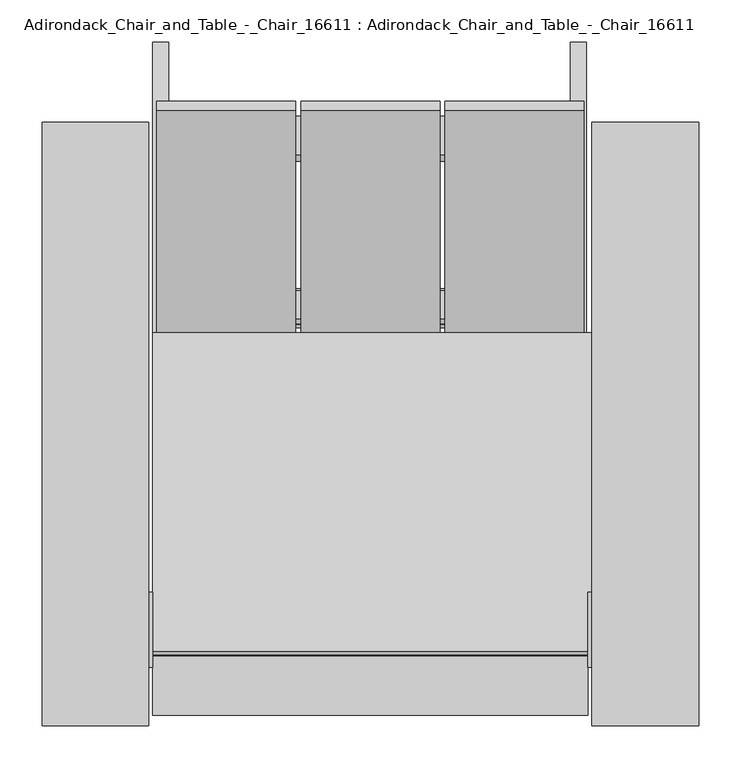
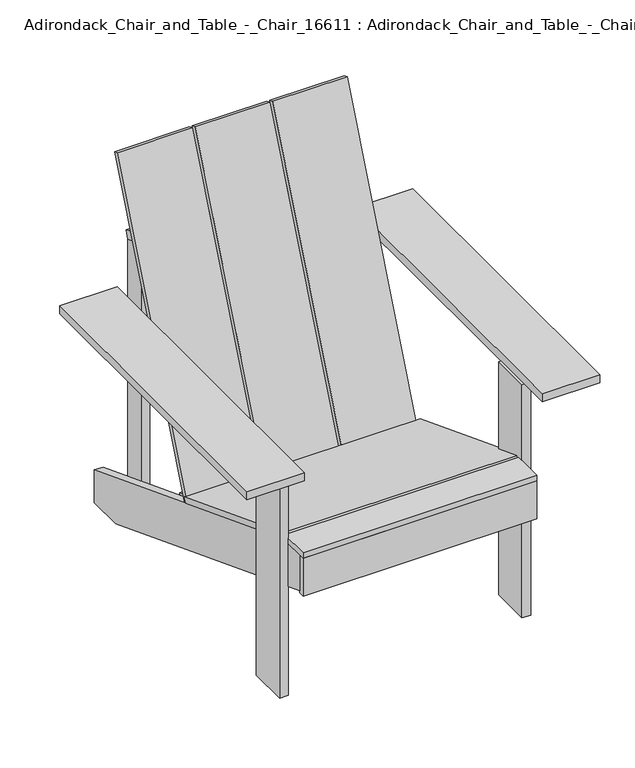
"""IFC4 building model written with IfcOpenShell, lengths in millimetres: furniture geometry, Adirondack_Chair_and_Table_-_Chair_16611 : Adirondack_Chair_and_Table_-_Chair_16611."""

from ifc_helpers import new_model, si_unit, frame, origin, origin_with_axes, place, context, project, spatial, polyline, outline, extrude, source, transform, mapped, element, save


def adirondack_chair_and_table_chair_16611_adirondack_chair_and_71c2177a(model_context):
    return source(origin(), model_context, "Body", "SweptSolid", [
        extrude(outline(polyline([(-692.15, 271.2133836), (-692.15, 355.6), (-630.7652871, 355.6), (95.25, 76.9088424), (95.25, 0.0), (14.3850198, 0.0), (-692.15, 271.2133836)])), frame((238.125, 0.0, 0.0), z_axis=(1.0, 0.0, 0.0), x_axis=(0.0, 1.0, 0.0)), (0.0, 0.0, 1.0), 19.05),
        extrude(outline(polyline([(0.0, -165.1), (0.0, 0.0), (12.6999999, 0.0), (12.6999999, -165.1), (0.0, -165.1)])), frame((-254.0, -270.4200029, 170.1152423), z_axis=(0.0, 0.37672565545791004, 0.9263248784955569), x_axis=(0.0, 0.9263248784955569, -0.37672565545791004)), (0.0, 0.0, 1.0), 753.3417422),
        extrude(outline(polyline([(0.0, -165.1), (0.0, 0.0), (12.6999999, 0.0), (12.6999999, -165.1), (0.0, -165.1)])), frame((-82.55, -270.4200029, 170.1152423), z_axis=(0.0, 0.37672565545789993, 0.9263248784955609), x_axis=(0.0, 0.9263248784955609, -0.37672565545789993)), (0.0, 0.0, 1.0), 753.3417422),
        extrude(outline(polyline([(0.0, -165.1), (0.0, 0.0), (12.6999999, 0.0), (12.6999999, -165.1), (0.0, -165.1)])), frame((88.9, -270.4200029, 170.1152423), z_axis=(0.0, 0.37672565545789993, 0.9263248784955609), x_axis=(0.0, 0.9263248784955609, -0.37672565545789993)), (0.0, 0.0, 1.0), 753.3417422),
        extrude(outline(polyline([(0.0, -34.925), (0.0, 0.0), (390.525, 0.0), (390.525, -34.925), (0.0, -34.925)])), frame((195.2625, -239.8771652, 209.6246958), z_axis=(0.0, 0.3420201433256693, 0.9396926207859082), x_axis=(-1.0, 0.0, 0.0)), (0.0, 0.0, 1.0), 19.05),
        extrude(outline(polyline([(0.0, -50.3071444), (0.0, 0.0), (479.425, 0.0), (479.425, -50.3071444), (0.0, -50.3071444)])), frame((239.7125, -46.6439721, 686.7104609), z_axis=(0.0, 0.3746065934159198, 0.9271838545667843), x_axis=(-1.0, 0.0, 0.0)), (0.0, 0.0, 1.0), 19.05),
        extrude(outline(polyline([(0.0, 667.8650729), (0.0, 63.5), (-50.8, 63.5), (-50.8, 676.4239308), (-46.6439721, 686.7104609), (0.0, 667.8650729)])), frame((-239.7125, 0.0, 0.0), z_axis=(1.0, 0.0, 0.0), x_axis=(0.0, 1.0, 0.0)), (0.0, 0.0, 1.0), 19.05),
        extrude(outline(polyline([(0.0, 667.8650729), (0.0, 63.5), (-50.8, 63.5), (-50.8, 676.4239308), (-46.6439721, 686.7104609), (0.0, 667.8650729)])), frame((220.6625, 0.0, 0.0), z_axis=(1.0, 0.0, 0.0), x_axis=(0.0, 1.0, 0.0)), (0.0, 0.0, 1.0), 19.05),
        extrude(outline(polyline([(-20.6375, 0.0), (-20.6375, -44.45), (-498.475, -44.45), (-498.475, 0.0), (-20.6375, 0.0)])), frame((258.7625, -202.451484, 182.4878042), z_axis=(0.0, 0.3420201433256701, 0.939692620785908), x_axis=(1.0, 0.0, 0.0)), (0.0, 0.0, 1.0), 12.7),
        extrude(outline(polyline([(252.4125, 0.0), (252.4125, -405.4595787), (-269.875, -405.4595787), (-269.875, 0.0), (252.4125, 0.0)])), frame((11.1125, -254.6415142, 211.2196109), z_axis=(0.0, 0.3583679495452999, 0.9335804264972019), x_axis=(1.0, 0.0, 0.0)), (0.0, 0.0, 1.0), 12.7),
        extrude(outline(polyline([(258.7625, -635.0), (258.7625, -704.85), (-258.7625, -704.85), (-258.7625, -635.0), (258.7625, -635.0)])), frame((0.0, 0.0, 355.6), z_axis=(0.0, 0.0, 1.0), x_axis=(1.0, 0.0, 0.0)), (0.0, 0.0, 1.0), 12.7),
        extrude(outline(polyline([(-692.15, 271.2133836), (-692.15, 355.6), (-630.7652871, 355.6), (95.25, 76.9088424), (95.25, 0.0), (14.3850198, 0.0), (-692.15, 271.2133836)])), frame((-258.7625, 0.0, 0.0), z_axis=(1.0, 0.0, 0.0), x_axis=(0.0, 1.0, 0.0)), (0.0, 0.0, 1.0), 19.05),
        extrude(outline(polyline([(258.7625, -704.85), (-258.7625, -704.85), (-258.7625, -692.15), (258.7625, -692.15), (258.7625, -704.85)])), frame((0.0, 0.0, 266.7), z_axis=(0.0, 0.0, 1.0), x_axis=(1.0, 0.0, 0.0)), (0.0, 0.0, 1.0), 88.9),
        extrude(outline(polyline([(-303.2125, -628.65), (-303.2125, -571.5), (-277.8125, -571.5), (-277.8125, -628.65), (-303.2125, -628.65)])), frame((0.0, 0.0, 520.7), z_axis=(0.0, 0.0, 1.0), x_axis=(1.0, 0.0, 0.0)), (0.0, 0.0, 1.0), 25.4),
        extrude(outline(polyline([(303.2125, -628.65), (277.8125, -628.65), (277.8125, -571.5), (303.2125, -571.5), (303.2125, -628.65)])), frame((0.0, 0.0, 520.7), z_axis=(0.0, 0.0, 1.0), x_axis=(1.0, 0.0, 0.0)), (0.0, 0.0, 1.0), 25.4),
        extrude(outline(polyline([(-258.7625, -647.7), (-277.8125, -647.7), (-277.8125, -558.8), (-258.7625, -558.8), (-258.7625, -647.7)])), origin_with_axes(), (0.0, 0.0, 1.0), 546.1),
        extrude(outline(polyline([(258.7625, -647.7), (258.7625, -558.8), (277.8125, -558.8), (277.8125, -647.7), (258.7625, -647.7)])), origin_with_axes(), (0.0, 0.0, 1.0), 546.1),
        extrude(outline(polyline([(-263.525, 0.0), (-263.525, -717.55), (-390.525, -717.55), (-390.525, 0.0), (-263.525, 0.0)])), frame((0.0, 0.0, 546.1), z_axis=(0.0, 0.0, 1.0), x_axis=(1.0, 0.0, 0.0)), (0.0, 0.0, 1.0), 19.05),
        extrude(outline(polyline([(263.525, 0.0), (390.525, 0.0), (390.525, -717.55), (263.525, -717.55), (263.525, 0.0)])), frame((0.0, 0.0, 546.1), z_axis=(0.0, 0.0, 1.0), x_axis=(1.0, 0.0, 0.0)), (0.0, 0.0, 1.0), 19.05),
    ])


if __name__ == "__main__":
    model = new_model("IFC4")
    model_context = context("Model", 3, world=origin())
    ifc_project = project(units=[si_unit("LENGTHUNIT", "METRE", prefix="MILLI")], contexts=[model_context])
    site = spatial("IfcSite", under=ifc_project)
    building = spatial("IfcBuilding", under=site)
    placement = place(None, origin())
    adirondack_chair_and_table_chair_16611_adirondack_chair_and_shape = adirondack_chair_and_table_chair_16611_adirondack_chair_and_71c2177a(model_context)
    element("IfcFurniture", 1, ObjectType="Adirondack_Chair_and_Table_-_Chair_16611 : Adirondack_Chair_and_Table_-_Chair_16611", at=placement, inside=building, context=model_context, shape_type="MappedRepresentation", body=[
        mapped(adirondack_chair_and_table_chair_16611_adirondack_chair_and_shape, transform((0.0, 0.0, 0.0), x_axis=(1.0, 0.0, 0.0), y_axis=(0.0, 1.0, 0.0), z_axis=(0.0, 0.0, 1.0))),
    ])
    save(model, "model.ifc")
